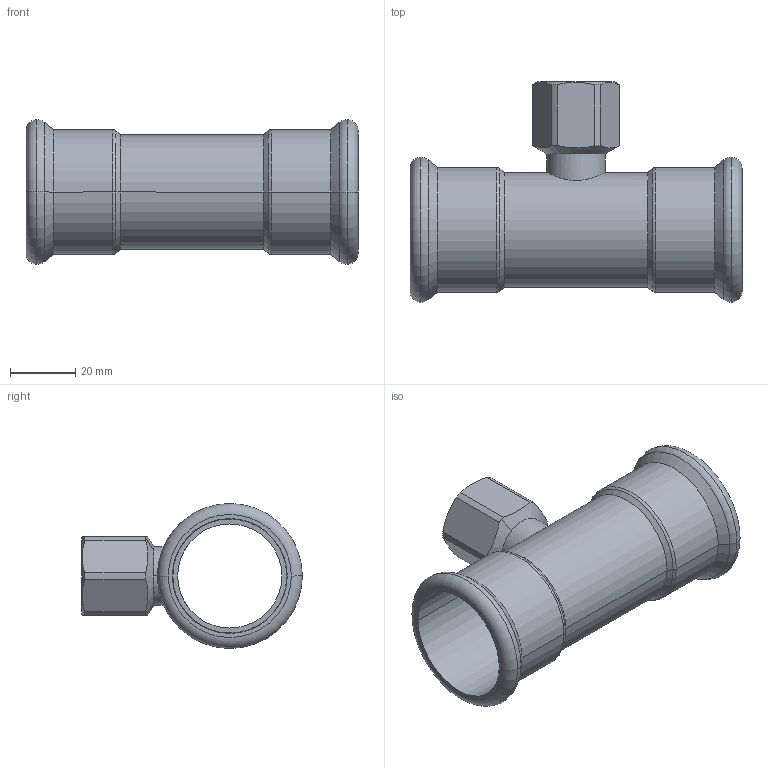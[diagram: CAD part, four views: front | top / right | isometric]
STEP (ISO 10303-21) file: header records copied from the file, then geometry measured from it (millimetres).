
FILE_DESCRIPTION(('CoCreate Modeling STEP Export'),'2;1');
FILE_NAME('C1418 35xRp1-2x35.stp','2014-11-12T13:39:12',(''),(''),'CoCreate Modeling STEP processor for AP214 (Solid Model)','CoCreate Modeling 17.00A 17-Jun-2010 (C) Parametric Technology GmbH','');
FILE_SCHEMA(('AUTOMOTIVE_DESIGN { 1 0 10303 214 1 1 1 1 }'));
Length unit declared in the file: millimetre
Products named in the file (2): C1418_35xRp1-2x35
Assembly tree (1 placements, depth 2):
  C1418_35xRp1-2x35
    C1418_35xRp1-2x35
Bounding box: 102 x 67.78 x 44.55 mm (x, y, z)
Volume: 26899.5 mm3; surface area: 28436.9 mm2
Topology: 1 solids, 1 shells, 66 faces, 154 edges, 94 vertices
Faces by surface type: cylinder 28, plane 14, torus 12, cone 12
Entity records: 3484 total; most frequent: CARTESIAN_POINT 2107, ORIENTED_EDGE 308, DIRECTION 240, EDGE_CURVE 154, AXIS2_PLACEMENT_3D 97, VERTEX_POINT 94, EDGE_LOOP 74, FACE_OUTER_BOUND 66
